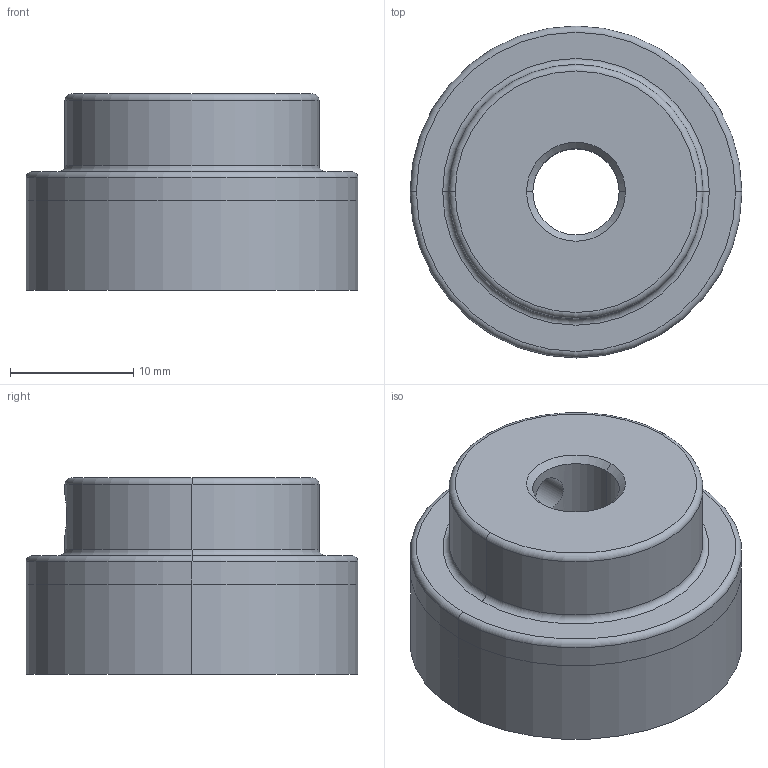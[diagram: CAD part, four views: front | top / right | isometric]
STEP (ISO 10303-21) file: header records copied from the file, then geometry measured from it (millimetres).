
FILE_DESCRIPTION (( 'STEP AP214' ), '1' );
FILE_NAME ('85 Z 0005 A 000 - MTD-0.2 (Kupplungshälfte).STEP', '2016-08-09T07:08:52', ( '' ), ( '' ), 'SwSTEP 2.0', 'SolidWorks 2016', '' );
FILE_SCHEMA (( 'AUTOMOTIVE_DESIGN' ));
Length unit declared in the file: millimetre
Products named in the file (2): 85 Z 0005 B 100  -  MTD-0.2 (Kupplungshälfte)_Bohrung = ›5; 85 Z 0005 A 000  -  MTD-0.2 (Kupplungshälfte)
Assembly tree (1 placements, depth 2):
  85 Z 0005 A 000  -  MTD-0.2 (Kupplungshälfte)
    85 Z 0005 B 100  -  MTD-0.2 (Kupplungshälfte)_Bohrung = ›5
Bounding box: 26.9 x 26.9 x 15.9 mm (x, y, z)
Volume: 6874.4 mm3; surface area: 4060.4 mm2
Topology: 2 solids, 2 shells, 30 faces, 62 edges, 38 vertices
Faces by surface type: cylinder 14, plane 6, torus 6, cone 4
Entity records: 1077 total; most frequent: CARTESIAN_POINT 238, DIRECTION 166, ORIENTED_EDGE 124, AXIS2_PLACEMENT_3D 74, EDGE_CURVE 62, CIRCLE 40, VERTEX_POINT 38, EDGE_LOOP 38
